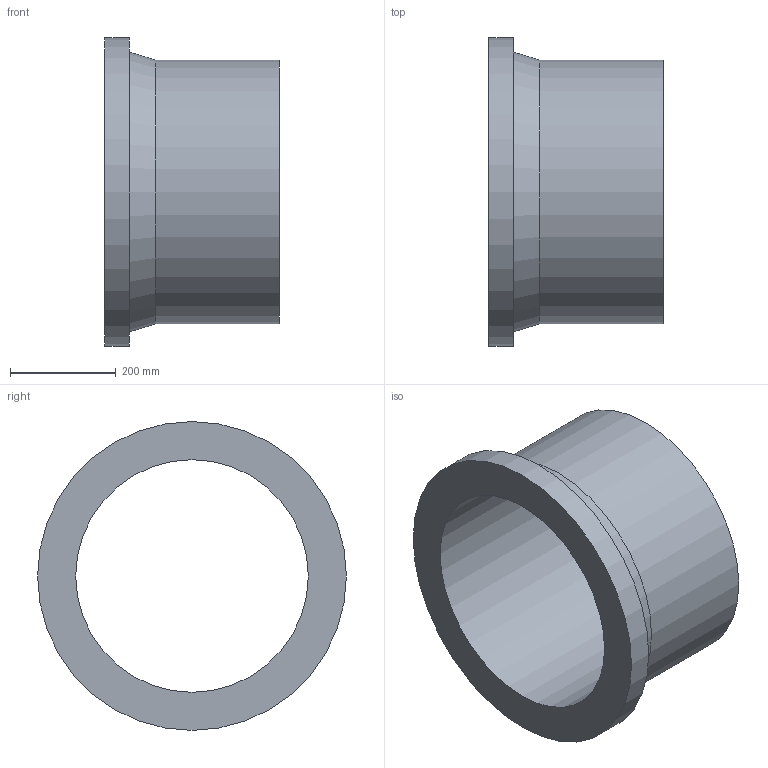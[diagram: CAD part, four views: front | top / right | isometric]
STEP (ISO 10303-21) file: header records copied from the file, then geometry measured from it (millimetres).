
FILE_DESCRIPTION(('Beschreibung'),'1');
FILE_NAME('V:/Ziel/25.80.01.063_SDR_17_PE100_500.STP', '2014-09-15T05:57:38',('Author'), ('Organization'), 'KCM Version 1.1.794.0', 'Kubotek KeyCreator', 'Authorization');
FILE_SCHEMA(('CONFIG_CONTROL_DESIGN'));
Length unit declared in the file: millimetre
Bounding box: 330 x 585 x 585 mm (x, y, z)
Volume: 18413653 mm3; surface area: 1201706.7 mm2
Topology: 1 solids, 1 shells, 7 faces, 18 edges, 21 vertices
Faces by surface type: cylinder 3, plane 3, cone 1
Full cylindrical faces by diameter (mm): 440.6 x1, 500 x1, 585 x1
Entity records: 286 total; most frequent: DIRECTION 41, CARTESIAN_POINT 33, ORIENTED_EDGE 22, AXIS2_PLACEMENT_3D 15, EDGE_CURVE 11, VECTOR 11, LINE 11, EDGE_LOOP 10
